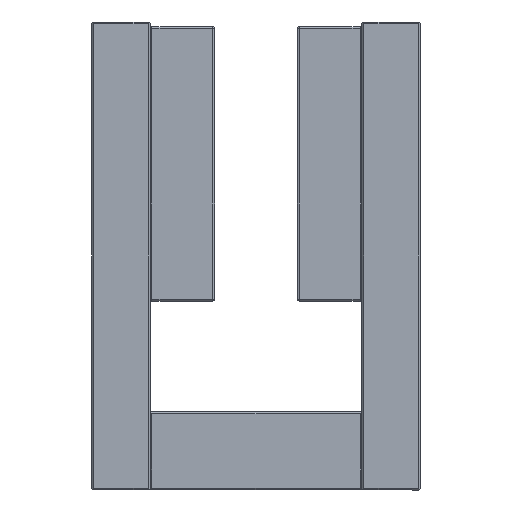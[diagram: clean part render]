
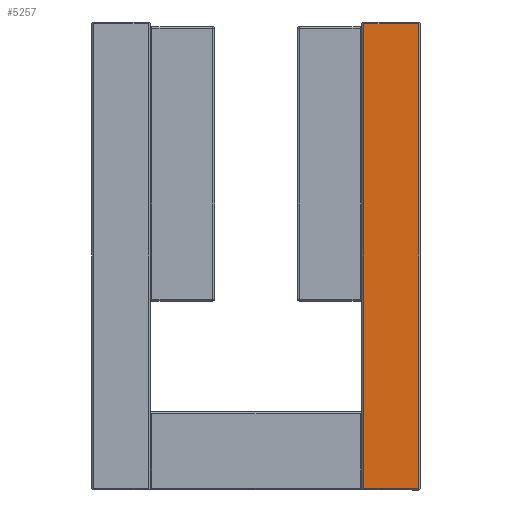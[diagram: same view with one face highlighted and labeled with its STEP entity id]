
A CAD part, front view. The second image highlights one B-rep face of the part: STEP entity #5257.
In plain terms, the highlighted planar face has unit normal (0, -1, 0).
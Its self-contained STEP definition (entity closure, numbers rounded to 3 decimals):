
#197 = CARTESIAN_POINT ( 'NONE',  ( 0., 0., -0.2 ) ) ;
#274 = AXIS2_PLACEMENT_3D ( 'NONE', #4298, #19946, #9774 ) ;
#1033 = CARTESIAN_POINT ( 'NONE',  ( 0.2, 0., 0. ) ) ;
#1492 = ORIENTED_EDGE ( 'NONE', *, *, #16578, .T. ) ;
#1797 = EDGE_LOOP ( 'NONE', ( #15594, #7317, #1492, #11952 ) ) ;
#3164 = EDGE_CURVE ( 'NONE', #17973, #7561, #6963, .T. ) ;
#3512 = VECTOR ( 'NONE', #12941, 1000. ) ;
#4298 = CARTESIAN_POINT ( 'NONE',  ( 0., 0., 0. ) ) ;
#4505 = FACE_OUTER_BOUND ( 'NONE', #1797, .T. ) ;
#4604 = CARTESIAN_POINT ( 'NONE',  ( 0.2, 0., -6.15 ) ) ;
#4916 = CARTESIAN_POINT ( 'NONE',  ( 50.6, 0., -0.2 ) ) ;
#5257 = ADVANCED_FACE ( 'NONE', ( #4505 ), #16400, .F. ) ;
#5651 = DIRECTION ( 'NONE',  ( 0., 0., 1. ) ) ;
#6963 = LINE ( 'NONE', #197, #19952 ) ;
#6965 = EDGE_CURVE ( 'NONE', #15881, #17973, #14507, .T. ) ;
#7196 = DIRECTION ( 'NONE',  ( -1., 0., 0. ) ) ;
#7317 = ORIENTED_EDGE ( 'NONE', *, *, #9836, .T. ) ;
#7505 = LINE ( 'NONE', #1033, #3512 ) ;
#7561 = VERTEX_POINT ( 'NONE', #16061 ) ;
#9209 = VECTOR ( 'NONE', #14341, 1000. ) ;
#9774 = DIRECTION ( 'NONE',  ( 0., 0., 1. ) ) ;
#9836 = EDGE_CURVE ( 'NONE', #7561, #16757, #7505, .T. ) ;
#9949 = VECTOR ( 'NONE', #5651, 1000. ) ;
#10655 = CARTESIAN_POINT ( 'NONE',  ( 50.6, 0., 0. ) ) ;
#11952 = ORIENTED_EDGE ( 'NONE', *, *, #6965, .T. ) ;
#12941 = DIRECTION ( 'NONE',  ( 0., 0., -1. ) ) ;
#13749 = LINE ( 'NONE', #17602, #9209 ) ;
#14341 = DIRECTION ( 'NONE',  ( 1., 0., 0. ) ) ;
#14507 = LINE ( 'NONE', #10655, #9949 ) ;
#15594 = ORIENTED_EDGE ( 'NONE', *, *, #3164, .T. ) ;
#15881 = VERTEX_POINT ( 'NONE', #18726 ) ;
#16061 = CARTESIAN_POINT ( 'NONE',  ( 0.2, 0., -0.2 ) ) ;
#16400 = PLANE ( 'NONE',  #274 ) ;
#16578 = EDGE_CURVE ( 'NONE', #16757, #15881, #13749, .T. ) ;
#16757 = VERTEX_POINT ( 'NONE', #4604 ) ;
#17602 = CARTESIAN_POINT ( 'NONE',  ( 0., 0., -6.15 ) ) ;
#17973 = VERTEX_POINT ( 'NONE', #4916 ) ;
#18726 = CARTESIAN_POINT ( 'NONE',  ( 50.6, 0., -6.15 ) ) ;
#19946 = DIRECTION ( 'NONE',  ( 0., 1., 0. ) ) ;
#19952 = VECTOR ( 'NONE', #7196, 1000. ) ;
